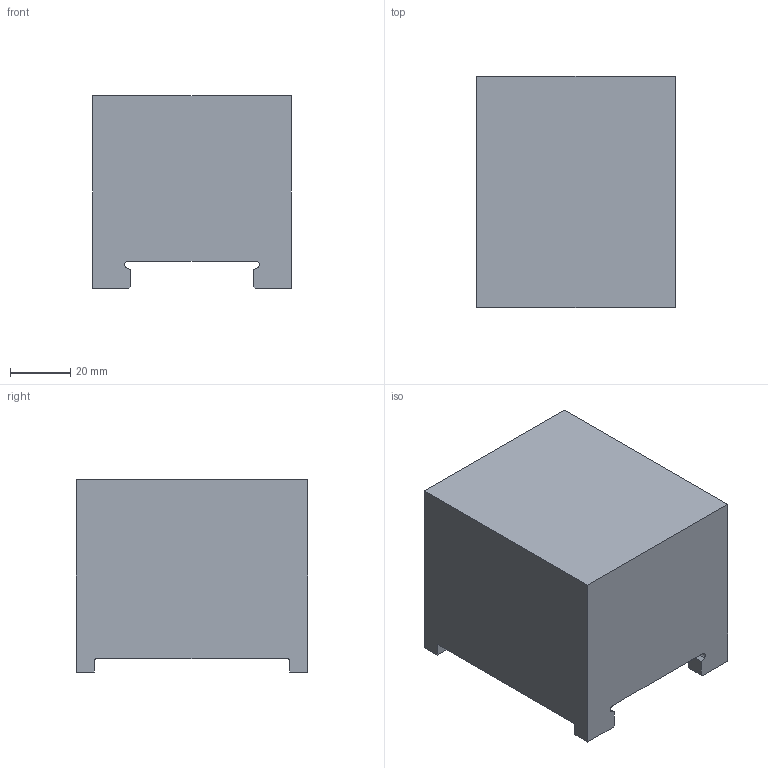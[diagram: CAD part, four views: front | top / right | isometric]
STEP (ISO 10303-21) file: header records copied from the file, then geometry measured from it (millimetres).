
FILE_DESCRIPTION (( 'STEP AP203' ), '1' );
FILE_NAME ('682400-64-Kundenmodell.STEP', '2020-10-05T12:15:40', ( '' ), ( '' ), 'SwSTEP 2.0', 'SolidWorks 2018', '' );
FILE_SCHEMA (( 'CONFIG_CONTROL_DESIGN' ));
Length unit declared in the file: millimetre
Products named in the file (2): 682400-64-Kundenmodell
Bounding box: 66 x 77 x 64 mm (x, y, z)
Volume: 289130.4 mm3; surface area: 28515.5 mm2
Topology: 1 solids, 1 shells, 40 faces, 114 edges, 76 vertices
Faces by surface type: plane 30, cylinder 10
Entity records: 1445 total; most frequent: CARTESIAN_POINT 256, ORIENTED_EDGE 228, DIRECTION 202, EDGE_CURVE 114, LINE 94, VECTOR 94, VERTEX_POINT 76, AXIS2_PLACEMENT_3D 54
